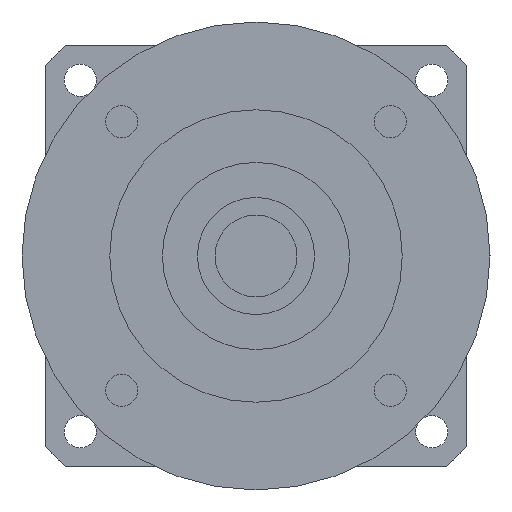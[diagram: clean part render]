
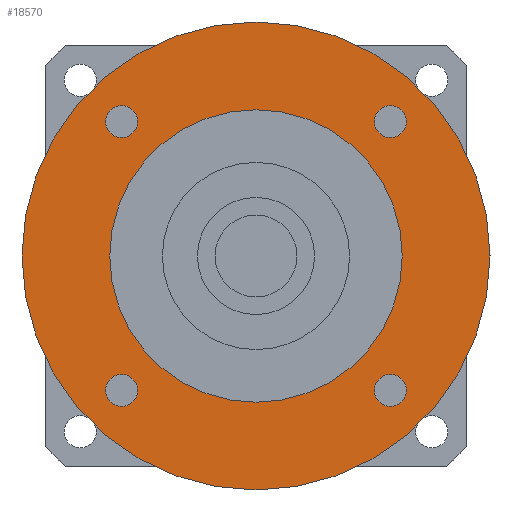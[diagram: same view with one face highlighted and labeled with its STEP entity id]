
A CAD part, left-side view. The second image highlights one B-rep face of the part: STEP entity #18570.
In plain terms, the highlighted planar face has unit normal (-1, 0, 0) as drawn and (0, 0, -1) by its records, which use the part's own axes.
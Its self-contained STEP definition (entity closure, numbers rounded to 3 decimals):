
#17240=CARTESIAN_POINT('',(40.,0.,-91.));
#17250=VERTEX_POINT('',#17240);
#17280=CARTESIAN_POINT('',(0.,0.,
-91.));
#17290=DIRECTION('',(0.,0.,1.));
#17300=DIRECTION('',(0.,-1.,0.));
#17310=AXIS2_PLACEMENT_3D('',#17280,#17290,#17300);
#17320=CIRCLE('',#17310,40.);
#17330=CARTESIAN_POINT('',(0.,-40.,-91.));
#17340=VERTEX_POINT('',#17330);
#17350=EDGE_CURVE('',#17340,#17250,#17320,.T.);
#17370=CARTESIAN_POINT('',(-40.,0.,-91.));
#17380=VERTEX_POINT('',#17370);
#17390=EDGE_CURVE('',#17380,#17340,#17320,.T.);
#17510=CARTESIAN_POINT('',(0.,0.,
-91.));
#17520=DIRECTION('',(0.,0.,1.));
#17530=DIRECTION('',(-1.,0.,0.));
#17540=AXIS2_PLACEMENT_3D('',#17510,#17520,#17530);
#17550=PLANE('',#17540);
#17560=CARTESIAN_POINT('',(22.981,-22.981,-91.));
#17570=DIRECTION('',(0.,0.,-1.));
#17580=DIRECTION('',(1.,0.,0.));
#17590=AXIS2_PLACEMENT_3D('',#17560,#17570,#17580);
#17600=CIRCLE('',#17590,2.75);
#17610=CARTESIAN_POINT('',(25.731,-22.981,-91.));
#17620=VERTEX_POINT('',#17610);
#17630=CARTESIAN_POINT('',(22.981,-25.731,-91.));
#17640=VERTEX_POINT('',#17630);
#17650=EDGE_CURVE('',#17620,#17640,#17600,.T.);
#17660=ORIENTED_EDGE('',*,*,#17650,.F.);
#17670=CARTESIAN_POINT('',(22.981,-20.231,-91.));
#17680=VERTEX_POINT('',#17670);
#17690=EDGE_CURVE('',#17640,#17680,#17600,.T.);
#17700=ORIENTED_EDGE('',*,*,#17690,.F.);
#17710=EDGE_CURVE('',#17680,#17620,#17600,.T.);
#17720=ORIENTED_EDGE('',*,*,#17710,.F.);
#17730=EDGE_LOOP('',(#17720,#17700,#17660));
#17740=FACE_BOUND('',#17730,.T.);
#17750=CARTESIAN_POINT('',(22.981,22.981,-91.));
#17760=DIRECTION('',(0.,0.,-1.));
#17770=DIRECTION('',(0.,1.,0.));
#17780=AXIS2_PLACEMENT_3D('',#17750,#17760,#17770);
#17790=CIRCLE('',#17780,2.75);
#17800=CARTESIAN_POINT('',(22.981,25.731,-91.));
#17810=VERTEX_POINT('',#17800);
#17820=CARTESIAN_POINT('',(25.731,22.981,-91.));
#17830=VERTEX_POINT('',#17820);
#17840=EDGE_CURVE('',#17810,#17830,#17790,.T.);
#17850=ORIENTED_EDGE('',*,*,#17840,.F.);
#17860=CARTESIAN_POINT('',(20.231,22.981,-91.));
#17870=VERTEX_POINT('',#17860);
#17880=EDGE_CURVE('',#17830,#17870,#17790,.T.);
#17890=ORIENTED_EDGE('',*,*,#17880,.F.);
#17900=EDGE_CURVE('',#17870,#17810,#17790,.T.);
#17910=ORIENTED_EDGE('',*,*,#17900,.F.);
#17920=EDGE_LOOP('',(#17910,#17890,#17850));
#17930=FACE_BOUND('',#17920,.T.);
#17940=CARTESIAN_POINT('',(-22.981,22.981,-91.));
#17950=DIRECTION('',(0.,0.,-1.));
#17960=DIRECTION('',(-1.,0.,0.));
#17970=AXIS2_PLACEMENT_3D('',#17940,#17950,#17960);
#17980=CIRCLE('',#17970,2.75);
#17990=CARTESIAN_POINT('',(-25.731,22.981,-91.));
#18000=VERTEX_POINT('',#17990);
#18010=CARTESIAN_POINT('',(-22.981,25.731,-91.));
#18020=VERTEX_POINT('',#18010);
#18030=EDGE_CURVE('',#18000,#18020,#17980,.T.);
#18040=ORIENTED_EDGE('',*,*,#18030,.F.);
#18050=CARTESIAN_POINT('',(-22.981,20.231,-91.));
#18060=VERTEX_POINT('',#18050);
#18070=EDGE_CURVE('',#18020,#18060,#17980,.T.);
#18080=ORIENTED_EDGE('',*,*,#18070,.F.);
#18090=EDGE_CURVE('',#18060,#18000,#17980,.T.);
#18100=ORIENTED_EDGE('',*,*,#18090,.F.);
#18110=EDGE_LOOP('',(#18100,#18080,#18040));
#18120=FACE_BOUND('',#18110,.T.);
#18130=CARTESIAN_POINT('',(-22.981,-22.981,-91.));
#18140=DIRECTION('',(0.,0.,-1.));
#18150=DIRECTION('',(0.,-1.,0.));
#18160=AXIS2_PLACEMENT_3D('',#18130,#18140,#18150);
#18170=CIRCLE('',#18160,2.75);
#18180=CARTESIAN_POINT('',(-22.981,-25.731,-91.));
#18190=VERTEX_POINT('',#18180);
#18200=CARTESIAN_POINT('',(-25.731,-22.981,-91.));
#18210=VERTEX_POINT('',#18200);
#18220=EDGE_CURVE('',#18190,#18210,#18170,.T.);
#18230=ORIENTED_EDGE('',*,*,#18220,.F.);
#18240=CARTESIAN_POINT('',(-20.231,-22.981,-91.));
#18250=VERTEX_POINT('',#18240);
#18260=EDGE_CURVE('',#18210,#18250,#18170,.T.);
#18270=ORIENTED_EDGE('',*,*,#18260,.F.);
#18280=EDGE_CURVE('',#18250,#18190,#18170,.T.);
#18290=ORIENTED_EDGE('',*,*,#18280,.F.);
#18300=EDGE_LOOP('',(#18290,#18270,#18230));
#18310=FACE_BOUND('',#18300,.T.);
#18320=ORIENTED_EDGE('',*,*,#17350,.F.);
#18330=EDGE_CURVE('',#17250,#17380,#17320,.T.);
#18340=ORIENTED_EDGE('',*,*,#18330,.F.);
#18350=ORIENTED_EDGE('',*,*,#17390,.F.);
#18360=EDGE_LOOP('',(#18350,#18340,#18320));
#18370=FACE_OUTER_BOUND('',#18360,.T.);
#18380=CARTESIAN_POINT('',(0.,0.,
-91.));
#18390=DIRECTION('',(0.,0.,1.));
#18400=DIRECTION('',(0.,-1.,0.));
#18410=AXIS2_PLACEMENT_3D('',#18380,#18390,#18400);
#18420=CIRCLE('',#18410,25.);
#18430=CARTESIAN_POINT('',(25.,0.,-91.));
#18440=VERTEX_POINT('',#18430);
#18450=CARTESIAN_POINT('',(-25.,0.,-91.));
#18460=VERTEX_POINT('',#18450);
#18470=EDGE_CURVE('',#18440,#18460,#18420,.T.);
#18480=ORIENTED_EDGE('',*,*,#18470,.T.);
#18490=CARTESIAN_POINT('',(0.,-25.,-91.));
#18500=VERTEX_POINT('',#18490);
#18510=EDGE_CURVE('',#18500,#18440,#18420,.T.);
#18520=ORIENTED_EDGE('',*,*,#18510,.T.);
#18530=EDGE_CURVE('',#18460,#18500,#18420,.T.);
#18540=ORIENTED_EDGE('',*,*,#18530,.T.);
#18550=EDGE_LOOP('',(#18540,#18520,#18480));
#18560=FACE_BOUND('',#18550,.T.);
#18570=ADVANCED_FACE('',(#17740,#17930,#18120,#18310,#18370,#18560),
#17550,.F.);
